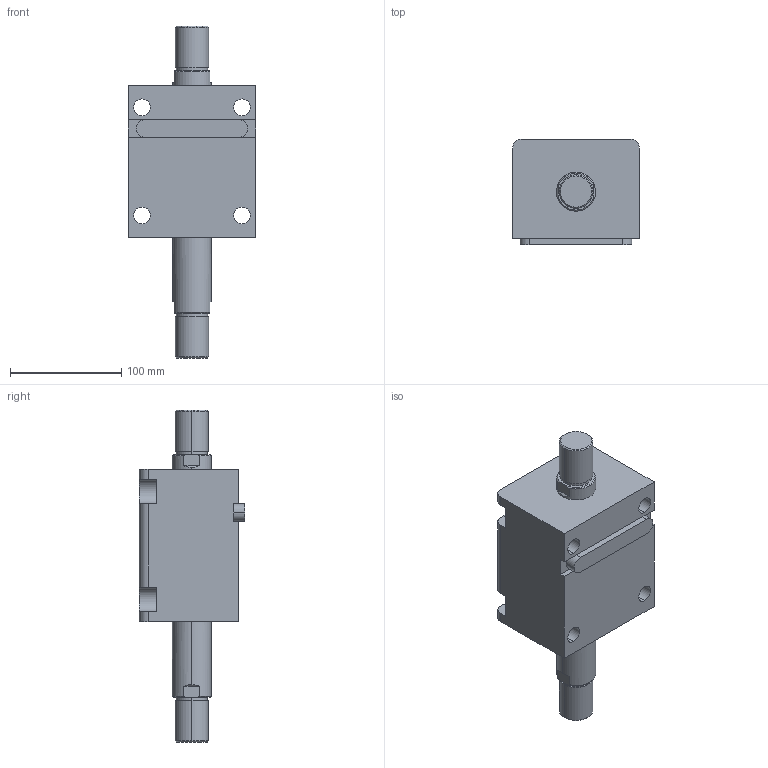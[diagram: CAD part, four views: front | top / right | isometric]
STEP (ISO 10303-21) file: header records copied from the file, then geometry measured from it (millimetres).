
FILE_DESCRIPTION (( 'STEP AP203' ), '1' );
FILE_NAME ('HTB-LW63-55W.STEP', '2019-10-09T08:27:15', ( '微软用户' ), ( '微软中国' ), 'SwSTEP 2.0', 'SolidWorks 2012', '' );
FILE_SCHEMA (( 'CONFIG_CONTROL_DESIGN' ));
Length unit declared in the file: millimetre
Products named in the file (4): HTB-LW63-55W; HTB-LA63-瑩; HTB-LW63-55W活塞杆; HTB-LW63-55掛极
Assembly tree (3 placements, depth 2):
  HTB-LW63-55W
    HTB-LW63-55掛极
    HTB-LW63-55W活塞杆
    HTB-LA63-瑩
Bounding box: 114 x 94.5 x 298 mm (x, y, z)
Volume: 1326072.5 mm3; surface area: 160395.6 mm2
Topology: 3 solids, 3 shells, 109 faces, 265 edges, 174 vertices
Faces by surface type: plane 48, cylinder 45, cone 12, torus 4
Entity records: 3679 total; most frequent: CARTESIAN_POINT 610, DIRECTION 593, ORIENTED_EDGE 530, EDGE_CURVE 265, AXIS2_PLACEMENT_3D 229, VERTEX_POINT 174, VECTOR 135, LINE 135
